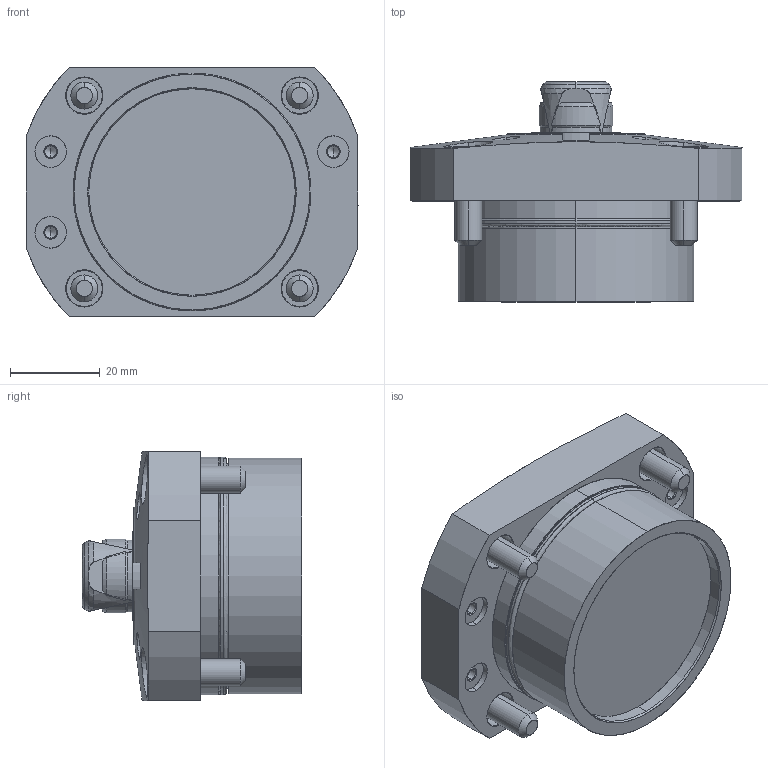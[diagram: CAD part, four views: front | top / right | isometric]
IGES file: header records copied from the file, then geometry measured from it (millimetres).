
Start section: SolidWorks IGES file using analytic representation for surfaces
Global section: file name: L:\電子カタログ-3Ｄ\SFH\ｱｾﾝﾌﾞﾘ\SFH3170.IGS; native system: SolidWorks 2010; preprocessor: SolidWorks 2010; author: D214; date: 101104.082603; units: millimetre
Bounding box: 74 x 49 x 55.5 mm (x, y, z)
Surface area: 30392 mm2 (no closed solid volume)
Topology: 0 solids, 0 shells, 562 faces, 7153 edges, 7125 vertices
Faces by surface type: revolution 318, bspline 244
